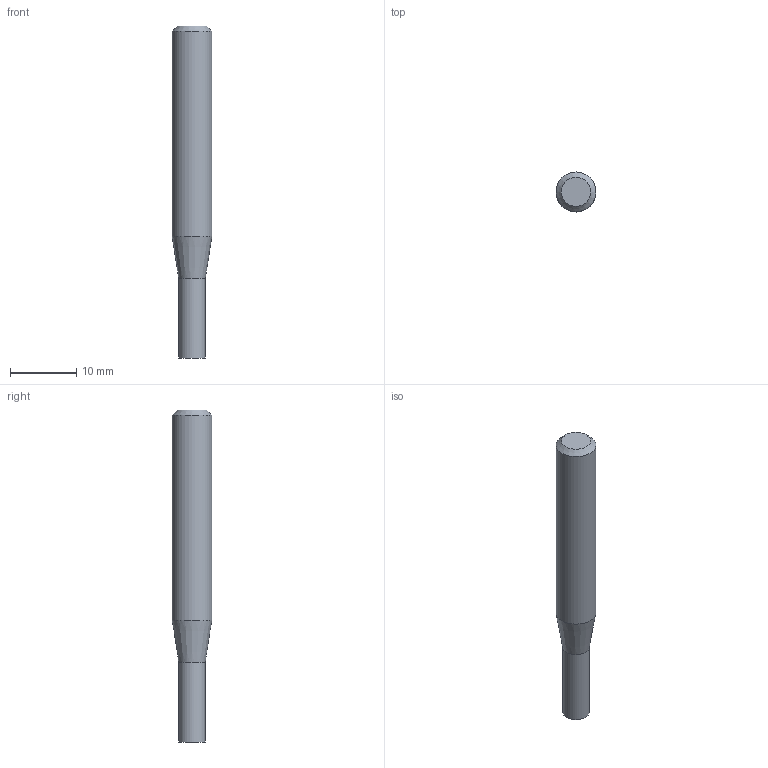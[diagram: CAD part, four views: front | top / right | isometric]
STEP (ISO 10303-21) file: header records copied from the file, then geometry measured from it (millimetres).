
FILE_DESCRIPTION((''),'2;1');
FILE_NAME('C:\Users\nsx150\AppData\Local\Temp\Mastercam 2021\W9Z147XDNF\TEMP.step','2021-04-08T14:43:32',(''),(''),'STEP Write','Mastercam 2021 ... CNC Software, Inc.','');
FILE_SCHEMA(('AUTOMOTIVE_DESIGN'));
Length unit declared in the file: millimetre
Products named in the file (1): None
Bounding box: 6 x 6 x 50 mm (x, y, z)
Volume: 1166.8 mm3; surface area: 904.8 mm2
Topology: 2 solids, 2 shells, 8 faces, 10 edges, 6 vertices
Faces by surface type: plane 4, cylinder 2, cone 2
Full cylindrical faces by diameter (mm): 4 x1, 6 x1
Entity records: 190 total; most frequent: DIRECTION 32, CARTESIAN_POINT 22, AXIS2_PLACEMENT_3D 16, ORIENTED_EDGE 12, EDGE_LOOP 12, STYLED_ITEM 11, ADVANCED_FACE 8, VERTEX_POINT 6
